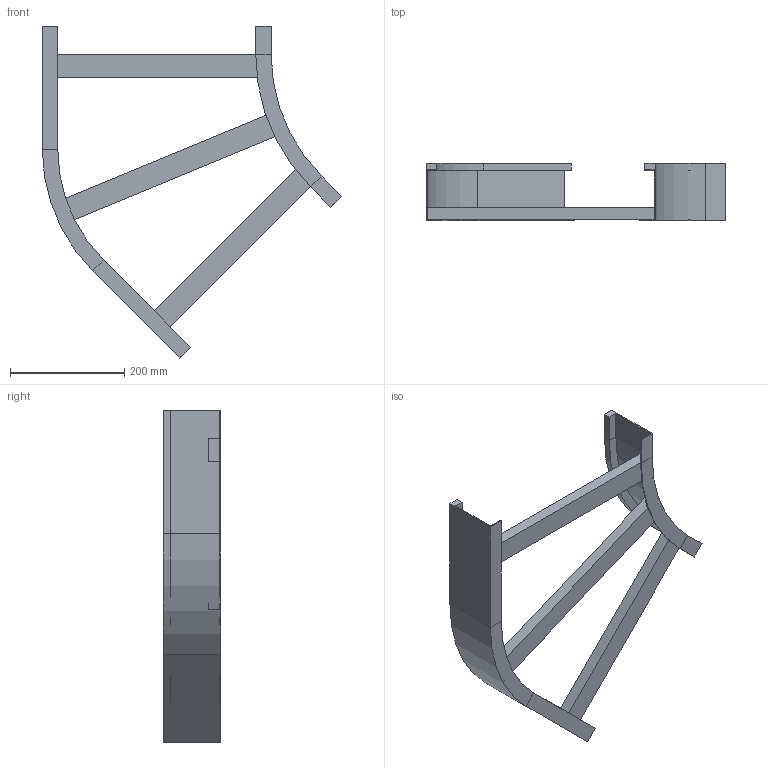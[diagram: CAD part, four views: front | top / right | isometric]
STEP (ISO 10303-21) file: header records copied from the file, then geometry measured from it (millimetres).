
FILE_DESCRIPTION (( 'STEP AP214' ), '1' );
FILE_NAME ('B2_11B3D400.step', '2025-02-21T15:12:58', ( '' ), ( '' ), 'SwSTEP 2.0', 'SolidWorks 2023', '' );
FILE_SCHEMA (( 'AUTOMOTIVE_DESIGN' ));
Length unit declared in the file: millimetre
Products named in the file (5): B2_LONGH.ESTERNO 45°_H100_R300+400; TRAVERSINO_L428; B2_LONGH.INTERNO 45°_H100_R300; TRAVERSINO_400; B2_11B3D400
Assembly tree (5 placements, depth 2):
  B2_11B3D400
    B2_LONGH.INTERNO 45°_H100_R300
    B2_LONGH.ESTERNO 45°_H100_R300+400
    TRAVERSINO_400  x2
    TRAVERSINO_L428
Bounding box: 523.22 x 100 x 580.33 mm (x, y, z)
Volume: 1431353.5 mm3; surface area: 440994.4 mm2
Topology: 5 solids, 5 shells, 70 faces, 148 edges, 88 vertices
Faces by surface type: plane 62, cylinder 8
Entity records: 1822 total; most frequent: DIRECTION 296, CARTESIAN_POINT 288, ORIENTED_EDGE 272, EDGE_CURVE 136, VECTOR 120, LINE 120, AXIS2_PLACEMENT_3D 88, VERTEX_POINT 80
